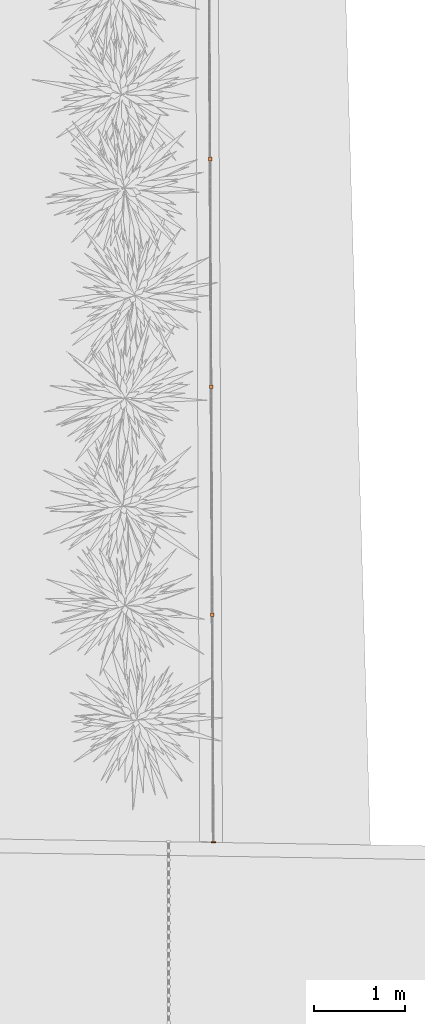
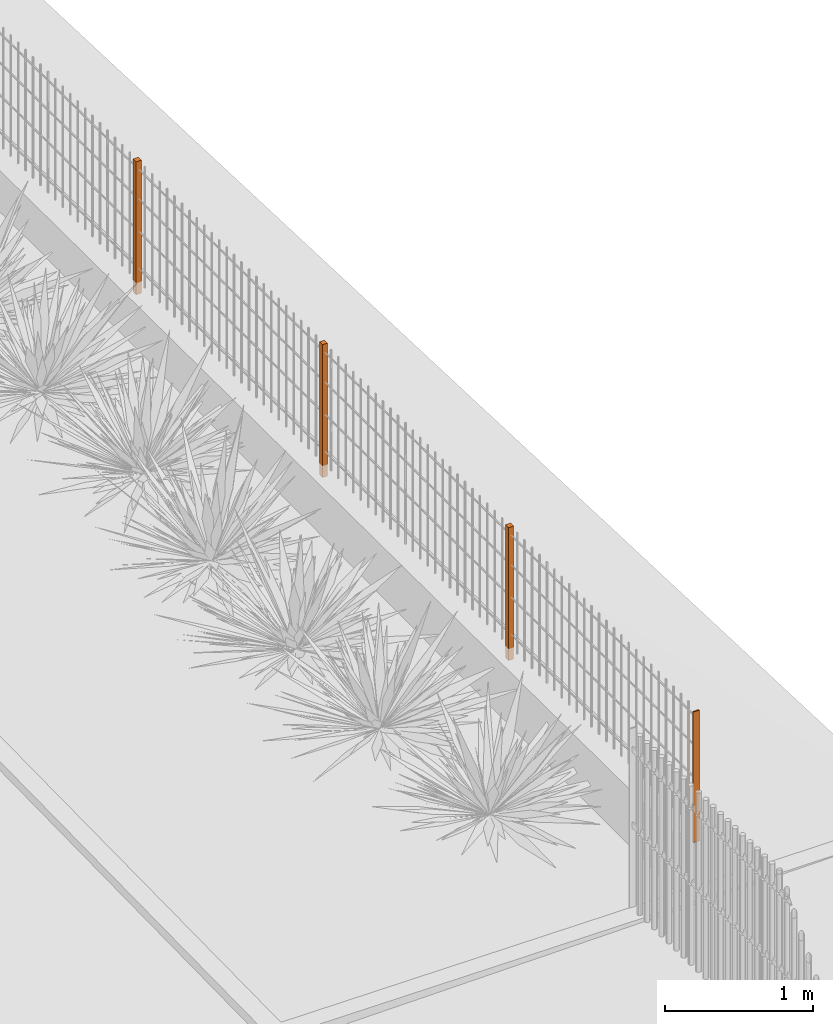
# One storey, part 38 of 1809: 4 proxies, 1 element without a shape of its own.
"""IFC2X3 building model written with IfcOpenShell, lengths in millimetres."""

from ifc_helpers import new_model, entity, si_unit, converted_unit, derived_unit, money_unit, direction, frame, origin_with_axes, place, context, subcontext, project, spatial, faceted_brep, source, transform, mapped, material, type_object, element, aggregate, save


model = new_model("IFC2X3")

# Units and contexts
model_context = context("Model", 3, precision=0.01, world=origin_with_axes(), true_north=direction((0.0, 1.0)))
body_context = subcontext(model_context, "Body", "Model", "MODEL_VIEW")
ifc_project = project(units=[si_unit("LENGTHUNIT", "METRE", prefix="MILLI"), si_unit("AREAUNIT", "SQUARE_METRE"), si_unit("VOLUMEUNIT", "CUBIC_METRE"), converted_unit("PLANEANGLEUNIT", "DEGREE", entity("IfcPlaneAngleMeasure", 0.0174532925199), si_unit("PLANEANGLEUNIT", "RADIAN"), dimensions=[0, 0, 0, 0, 0, 0, 0]), si_unit("SOLIDANGLEUNIT", "STERADIAN"), money_unit("EUR"), converted_unit("TIMEUNIT", "Year", entity("IfcTimeMeasure", 31556926.0), si_unit("TIMEUNIT", "SECOND"), dimensions=[0, 0, 1, 0, 0, 0, 0]), si_unit("MASSUNIT", "GRAM", prefix="KILO"), si_unit("THERMODYNAMICTEMPERATUREUNIT", "DEGREE_CELSIUS"), si_unit("LUMINOUSINTENSITYUNIT", "LUMEN"), si_unit("ENERGYUNIT", "JOULE", prefix="MEGA"), derived_unit("THERMALCONDUCTANCEUNIT", [(si_unit("POWERUNIT", "WATT"), 1), (si_unit("LENGTHUNIT", "METRE"), -1), (si_unit("THERMODYNAMICTEMPERATUREUNIT", "KELVIN"), -1)]), derived_unit("SPECIFICHEATCAPACITYUNIT", [(si_unit("ENERGYUNIT", "JOULE"), 1), (si_unit("MASSUNIT", "GRAM", prefix="KILO"), -1), (si_unit("THERMODYNAMICTEMPERATUREUNIT", "KELVIN"), -1)]), derived_unit("MASSDENSITYUNIT", [(si_unit("MASSUNIT", "GRAM", prefix="KILO"), 1), (si_unit("VOLUMEUNIT", "CUBIC_METRE"), -1)])], contexts=[model_context])

# Site, building, storey
site_placement = place(None, origin_with_axes())
site = spatial("IfcSite", under=ifc_project, at=site_placement, Name="Politse- ja Piirivalveameti ning Päästeameti ühishoone", CompositionType="ELEMENT")
building_placement = place(site_placement, origin_with_axes())
building = spatial("IfcBuilding", under=site, at=building_placement, Name="Politse- ja Piirivalveameti ning Päästeameti ühishoone", CompositionType="ELEMENT")
storey_placement = place(building_placement, origin_with_axes())
storey = spatial("IfcBuildingStorey", under=building, at=storey_placement, Name="Esimene korrus", CompositionType="ELEMENT", Elevation=0.0)

# Proxies
building_element_proxy_type_1 = type_object("IfcBuildingElementProxyType", Name="Railing Type", PredefinedType="NOTDEFINED")
proxy_1_placement = place(storey_placement, frame((88449.2204314, 58319.144353, 0.0), z_axis=(0.0, 0.0, 1.0), x_axis=(1.0, 0.0, 0.0)))
proxy_1 = element("IfcBuildingElementProxy", 1, at=proxy_1_placement, inside=storey, type_object=building_element_proxy_type_1, Name="PIIRDEAED")
ifc_material = material(Name="Teras - Konstruktsioon")
building_element_proxy_type_2 = type_object("IfcBuildingElementProxyType", Name="IfcBuildingElementProxy", PredefinedType="NOTDEFINED")
shared_shape_1 = source(origin_with_axes(), body_context, "Body", "Brep", [
    faceted_brep([(25.0, 5.0, 0.0), (-25.0, 5.0, 0.0), (-25.0, 4.99999999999, 1080.0), (25.0, 4.99999999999, 1080.0), (25.0, -5.0, 0.0), (-25.0, -5.0, 0.0), (-25.0, -5.00000000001, 1080.0), (25.0, -5.00000000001, 1080.0)], [[[0, 1, 2, 3]], [[0, 4, 5, 1]], [[1, 5, 6, 2]], [[3, 2, 6, 7]], [[4, 0, 3, 7]], [[5, 4, 7, 6]]]),
])
proxy_2_placement = place(proxy_1_placement, frame((565.770992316, -10869.2744925, 0.0), z_axis=(0.0, 0.0, 1.0), x_axis=(1.0, 0.0, 0.0)))
proxy_2 = element("IfcBuildingElementProxy", 2, at=proxy_2_placement, type_object=building_element_proxy_type_2, material=ifc_material, Name="PIIRDE POST - 001", context=body_context, shape_type="MappedRepresentation", body=[
    mapped(shared_shape_1, transform((0.0, 0.0, 0.0), x_axis=(0.999988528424, 0.00478988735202, 0.0), y_axis=(-0.00478988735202, 0.999988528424, 0.0), z_axis=(0.0, 0.0, 1.0))),
])
shared_shape_2 = source(origin_with_axes(), body_context, "Body", "Brep", [
    faceted_brep([(20.0, 20.0, 0.0), (-20.0, 20.0, 0.0), (-20.0, 20.0, 1100.0), (20.0, 20.0, 1100.0), (20.0, -20.0, 0.0), (-20.0, -20.0, 0.0), (-20.0, -20.0, 1100.0), (20.0, -20.0, 1100.0)], [[[0, 1, 2, 3]], [[0, 4, 5, 1]], [[1, 5, 6, 2]], [[3, 2, 6, 7]], [[4, 0, 3, 7]], [[5, 4, 7, 6]]]),
])
proxy_3_placement = place(proxy_1_placement, frame((553.796273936, -8369.30317146, 0.0), z_axis=(0.0, 0.0, 1.0), x_axis=(1.0, 0.0, 0.0)))
proxy_3 = element("IfcBuildingElementProxy", 3, at=proxy_3_placement, type_object=building_element_proxy_type_2, material=ifc_material, Name="SISEPOST - 001", context=body_context, shape_type="MappedRepresentation", body=[
    mapped(shared_shape_2, transform((0.0, 0.0, 0.0), x_axis=(0.999988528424, 0.00478988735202, 0.0), y_axis=(-0.00478988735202, 0.999988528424, 0.0), z_axis=(0.0, 0.0, 1.0))),
])
proxy_4_placement = place(proxy_1_placement, frame((541.821555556, -5869.3318504, 0.0), z_axis=(0.0, 0.0, 1.0), x_axis=(1.0, 0.0, 0.0)))
proxy_4 = element("IfcBuildingElementProxy", 4, at=proxy_4_placement, type_object=building_element_proxy_type_2, material=ifc_material, Name="SISEPOST - 001", context=body_context, shape_type="MappedRepresentation", body=[
    mapped(shared_shape_2, transform((0.0, 0.0, 0.0), x_axis=(0.999988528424, 0.00478988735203, 0.0), y_axis=(-0.00478988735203, 0.999988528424, 0.0), z_axis=(0.0, 0.0, 1.0))),
])
proxy_5_placement = place(proxy_1_placement, frame((529.846837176, -3369.36052934, 0.0), z_axis=(0.0, 0.0, 1.0), x_axis=(1.0, 0.0, 0.0)))
proxy_5 = element("IfcBuildingElementProxy", 5, at=proxy_5_placement, type_object=building_element_proxy_type_2, material=ifc_material, Name="SISEPOST - 001", context=body_context, shape_type="MappedRepresentation", body=[
    mapped(shared_shape_2, transform((0.0, 0.0, 0.0), x_axis=(0.999988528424, 0.00478988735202, 0.0), y_axis=(-0.00478988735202, 0.999988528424, 0.0), z_axis=(0.0, 0.0, 1.0))),
])
aggregate(proxy_1, [proxy_2, proxy_3, proxy_4, proxy_5])

save(model, "model.ifc")
